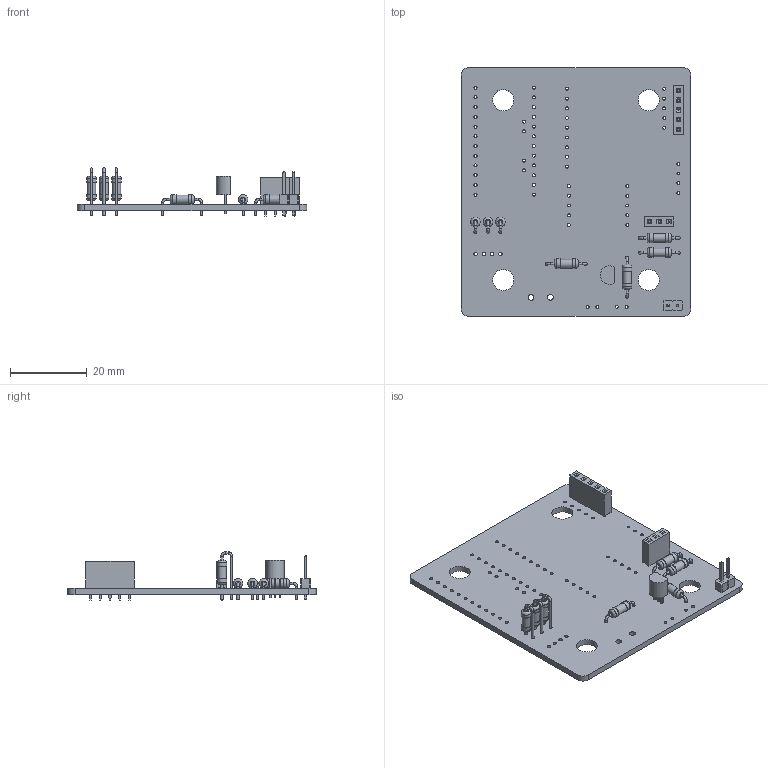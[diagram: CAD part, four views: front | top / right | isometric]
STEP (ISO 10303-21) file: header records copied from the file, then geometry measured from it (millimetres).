
FILE_DESCRIPTION(('KiCad electronic assembly'),'2;1');
FILE_NAME('Remote Sensor 2.step','2022-07-04T23:56:05',('An Author'),( 'A Company'),'Open CASCADE STEP processor 7.5', 'KiCad to STEP converter','Unknown');
FILE_SCHEMA(('AUTOMOTIVE_DESIGN { 1 0 10303 214 1 1 1 1 }'));
Length unit declared in the file: millimetre
Products named in the file (14): Open CASCADE STEP translator 7.5 1; R_Axial_DIN0207_L6.3mm_D2.5mm_P10.16mm_Horizontal; SOLID; R_Axial_DIN0207_L6.3mm_D2.5mm_P2.54mm_Vertical; PinSocket_1x05_P2.54mm_Vertical; PinSocket_1x03_P2.54mm_Vertical; TO-92_Inline; PinHeader_1x02_P2.54mm_Vertical; COMPOUND
Assembly tree (18 placements, depth 3):
  Open CASCADE STEP translator 7.5 1
    R_Axial_DIN0207_L6.3mm_D2.5mm_P10.16mm_Horizontal  x4
      SOLID
    R_Axial_DIN0207_L6.3mm_D2.5mm_P2.54mm_Vertical  x3
      SOLID
    PinSocket_1x05_P2.54mm_Vertical
      SOLID
    PinSocket_1x03_P2.54mm_Vertical
      SOLID
    TO-92_Inline
      SOLID
    PinHeader_1x02_P2.54mm_Vertical
      SOLID
    COMPOUND
Bounding box: 60 x 65 x 12.6 mm (x, y, z)
Volume: 6673.5 mm3; surface area: 9835.6 mm2
Topology: 12 solids, 12 shells, 565 faces, 1356 edges, 874 vertices
Faces by surface type: plane 386, cylinder 151, torus 28
Full cylindrical faces by diameter (mm): 0.6 x28, 0.75 x3, 0.762 x32, 0.8 x42, 0.9 x4, 1 x10, 1.52 x2, 2.25 x7, 2.5 x14, 5.5 x4
Entity records: 33556 total; most frequent: CARTESIAN_POINT 5064, DIRECTION 4887, LINE 3195, VECTOR 3195, ORIENTED_EDGE 2442, PCURVE 2442, DEFINITIONAL_REPRESENTATION 2442, EDGE_CURVE 1221
